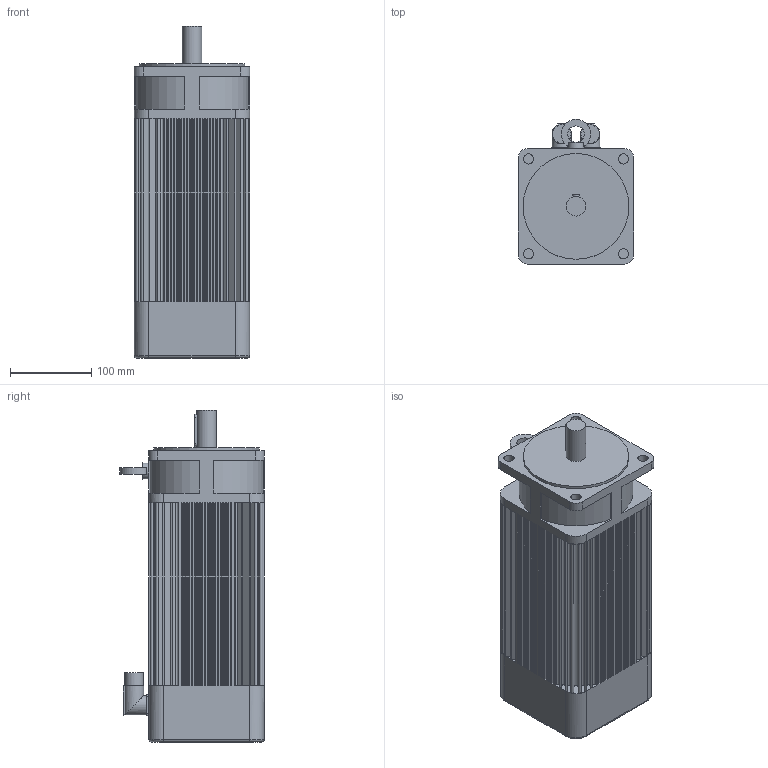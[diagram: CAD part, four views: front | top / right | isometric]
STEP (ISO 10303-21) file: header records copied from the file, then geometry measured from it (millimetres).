
FILE_DESCRIPTION(/* description */ (''),/* implementation_level */ '2;1');
FILE_NAME(/* name */ '\\Lafnas01\disegni\Archivi Lafert\3D\CAD 3D\MODELLI\Assiemi clienti\Serad\Modelli 3D Serad\B71I\Encoder\Enc Without Brake\B7128Ixx6ARx2033.ipt.stp',/* time_stamp */ '2015-09-07T10:51:48+02:00',/* author */ ('Pastrello Ylenia'),/* organization */ (''),/* preprocessor_version */ 'ST-DEVELOPER v15.6',/* originating_system */ 'Autodesk Inventor 2015',/* authorisation */ '');
FILE_SCHEMA (('AUTOMOTIVE_DESIGN { 1 0 10303 214 3 1 1 }'));
Length unit declared in the file: millimetre
Products named in the file (1): B7128Ixx6ARx2033
Bounding box: 142 x 178 x 408.5 mm (x, y, z)
Volume: 6724735.4 mm3; surface area: 374488.2 mm2
Topology: 1 solids, 1 shells, 547 faces, 1378 edges, 903 vertices
Faces by surface type: plane 430, cylinder 113, torus 4
Full cylindrical faces by diameter (mm): 12.5 x4, 20 x2, 22.7 x2, 24 x3, 130 x1
Entity records: 16305 total; most frequent: CARTESIAN_POINT 2863, DIRECTION 2786, ORIENTED_EDGE 2724, EDGE_CURVE 1362, LINE 1026, VECTOR 1026, VERTEX_POINT 900, AXIS2_PLACEMENT_3D 880
